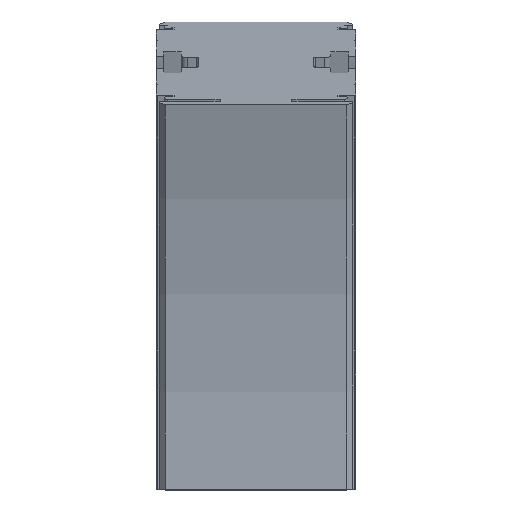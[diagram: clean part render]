
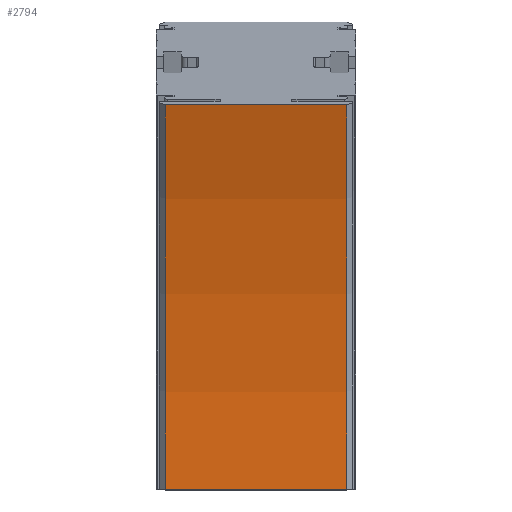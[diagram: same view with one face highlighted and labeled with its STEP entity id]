
A CAD part, top view. The second image highlights one B-rep face of the part: STEP entity #2794.
In plain terms, the highlighted cylindrical face has radius 360 mm (diameter 720 mm), a partial arc.
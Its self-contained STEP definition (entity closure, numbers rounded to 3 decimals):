
#88=CYLINDRICAL_SURFACE('',#3073,360.);
#298=CIRCLE('',#3072,360.);
#299=CIRCLE('',#3074,360.);
#463=FACE_OUTER_BOUND('',#617,.T.);
#617=EDGE_LOOP('',(#2255,#2256,#2257,#2258));
#805=LINE('',#9301,#1011);
#806=LINE('',#9303,#1012);
#1011=VECTOR('',#3758,10.);
#1012=VECTOR('',#3759,10.);
#1277=VERTEX_POINT('',#9294);
#1278=VERTEX_POINT('',#9296);
#1279=VERTEX_POINT('',#9300);
#1280=VERTEX_POINT('',#9302);
#1665=EDGE_CURVE('',#1277,#1278,#298,.T.);
#1666=EDGE_CURVE('',#1279,#1277,#805,.T.);
#1667=EDGE_CURVE('',#1280,#1278,#806,.T.);
#1668=EDGE_CURVE('',#1279,#1280,#299,.T.);
#2255=ORIENTED_EDGE('',*,*,#1666,.T.);
#2256=ORIENTED_EDGE('',*,*,#1665,.T.);
#2257=ORIENTED_EDGE('',*,*,#1667,.F.);
#2258=ORIENTED_EDGE('',*,*,#1668,.F.);
#2794=ADVANCED_FACE('',(#463),#88,.F.);
#3072=AXIS2_PLACEMENT_3D('',#9298,#3754,#3755);
#3073=AXIS2_PLACEMENT_3D('',#9299,#3756,#3757);
#3074=AXIS2_PLACEMENT_3D('',#9304,#3760,#3761);
#3754=DIRECTION('center_axis',(1.,0.,0.));
#3755=DIRECTION('ref_axis',(0.,0.,-1.));
#3756=DIRECTION('center_axis',(1.,0.,0.));
#3757=DIRECTION('ref_axis',(0.,0.,-1.));
#3758=DIRECTION('',(1.,0.,0.));
#3759=DIRECTION('',(1.,0.,0.));
#3760=DIRECTION('center_axis',(1.,0.,0.));
#3761=DIRECTION('ref_axis',(0.,0.,
-1.));
#9294=CARTESIAN_POINT('',(29.,0.,40.));
#9296=CARTESIAN_POINT('',(29.,123.127,61.711));
#9298=CARTESIAN_POINT('Origin',(29.,0.,
400.));
#9299=CARTESIAN_POINT('Origin',(-14.5,0.,400.));
#9300=CARTESIAN_POINT('',(-29.,0.,40.));
#9301=CARTESIAN_POINT('',(-29.,0.,40.));
#9302=CARTESIAN_POINT('',(-29.,123.127,61.711));
#9303=CARTESIAN_POINT('',(-29.,123.127,61.711));
#9304=CARTESIAN_POINT('Origin',(-29.,0.,
400.));
